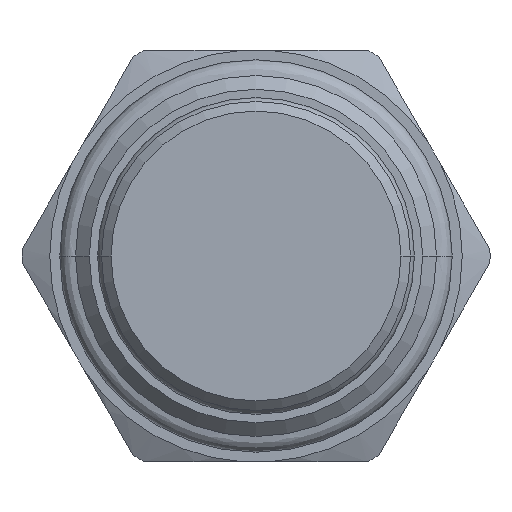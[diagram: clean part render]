
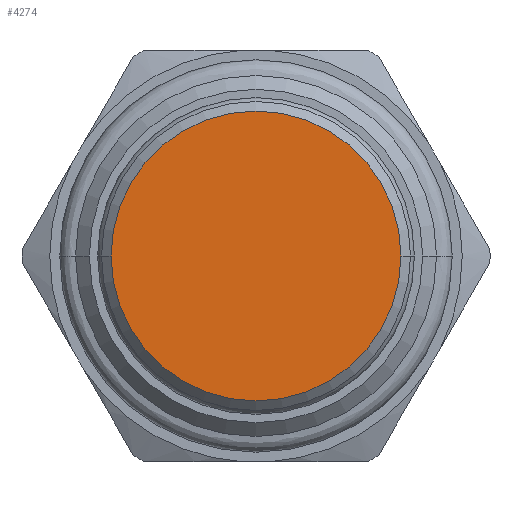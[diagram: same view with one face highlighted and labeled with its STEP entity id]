
A CAD part, front view. The second image highlights one B-rep face of the part: STEP entity #4274.
In plain terms, the highlighted planar face has unit normal (0, -1, 0).
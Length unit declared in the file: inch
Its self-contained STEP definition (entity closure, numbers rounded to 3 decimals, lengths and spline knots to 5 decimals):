
#1426=CARTESIAN_POINT('',(0.,-1.78751,0.));
#1427=DIRECTION('',(0.,1.,0.));
#1428=DIRECTION('',(1.,0.,0.));
#1429=AXIS2_PLACEMENT_3D('',#1426,#1427,#1428);
#1436=CARTESIAN_POINT('',(0.,-1.78751,0.));
#1437=DIRECTION('',(0.,1.,0.));
#1438=DIRECTION('',(-1.,0.,0.));
#1439=AXIS2_PLACEMENT_3D('',#1436,#1437,#1438);
#2223=CARTESIAN_POINT('',(0.527,-1.78751,0.));
#2224=CARTESIAN_POINT('',(-0.527,-1.78751,0.));
#2225=VERTEX_POINT('',#2223);
#2226=VERTEX_POINT('',#2224);
#4264=CARTESIAN_POINT('',(0.,-1.78751,0.));
#4265=DIRECTION('',(0.,1.,0.));
#4266=DIRECTION('',(1.,0.,0.));
#4267=AXIS2_PLACEMENT_3D('',#4264,#4265,#4266);
#4268=PLANE('',#4267);
#4269=ORIENTED_EDGE('',*,*,#4254,.T.);
#4271=ORIENTED_EDGE('',*,*,#4270,.T.);
#4272=EDGE_LOOP('',(#4269,#4271));
#4273=FACE_OUTER_BOUND('',#4272,.F.);
#4274=ADVANCED_FACE('',(#4273),#4268,.F.);
#1430=CIRCLE('',#1429,0.527);
#1440=CIRCLE('',#1439,0.527);
#4254=EDGE_CURVE('',#2225,#2226,#1430,.T.);
#4270=EDGE_CURVE('',#2226,#2225,#1440,.T.);
